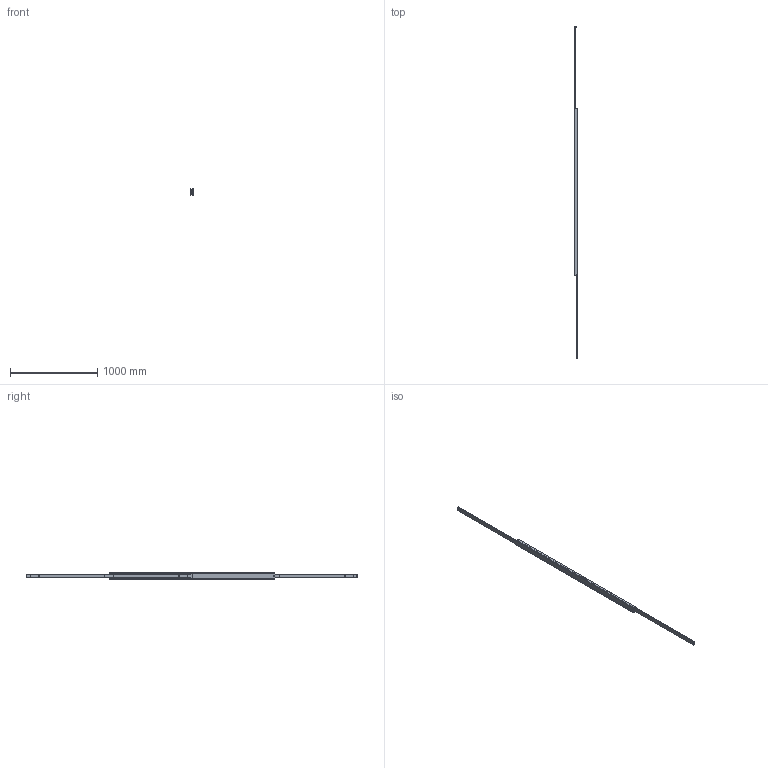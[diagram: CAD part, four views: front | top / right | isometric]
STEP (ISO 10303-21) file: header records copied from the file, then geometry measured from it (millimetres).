
FILE_DESCRIPTION(/* description */ (''),/* implementation_level */ '2;1');
FILE_NAME(/* name */ 'D:\Zeichnungen Schienen Komplett\MX-DTP70\MX-DTP70.190\MX-DTP70.190_ausgefahren.step',/* time_stamp */ '2022-01-21T11:58:33+01:00',/* author */ ('zmile'),/* organization */ (''),/* preprocessor_version */ 'ST-DEVELOPER v16.13',/* originating_system */ 'AutoCAD Mechanical',/* authorisation */ '');
FILE_SCHEMA (('AUTOMOTIVE_DESIGN { 1 0 10303 214 3 1 1 }'));
Length unit declared in the file: millimetre
Products named in the file (1): Product
Bounding box: 32 x 3800 x 70 mm (x, y, z)
Volume: 3252245.6 mm3; surface area: 1165961 mm2
Topology: 117 solids, 119 shells, 246 faces, 912 edges, 680 vertices
Faces by surface type: sphere 112, plane 82, cylinder 38, bspline 8, torus 6
Full cylindrical faces by diameter (mm): 8 x24, 13 x2
Entity records: 15475 total; most frequent: CARTESIAN_POINT 8035, DIRECTION 1538, ORIENTED_EDGE 1052, VERTEX_POINT 678, AXIS2_PLACEMENT_3D 663, EDGE_CURVE 654, EDGE_LOOP 554, CIRCLE 420
